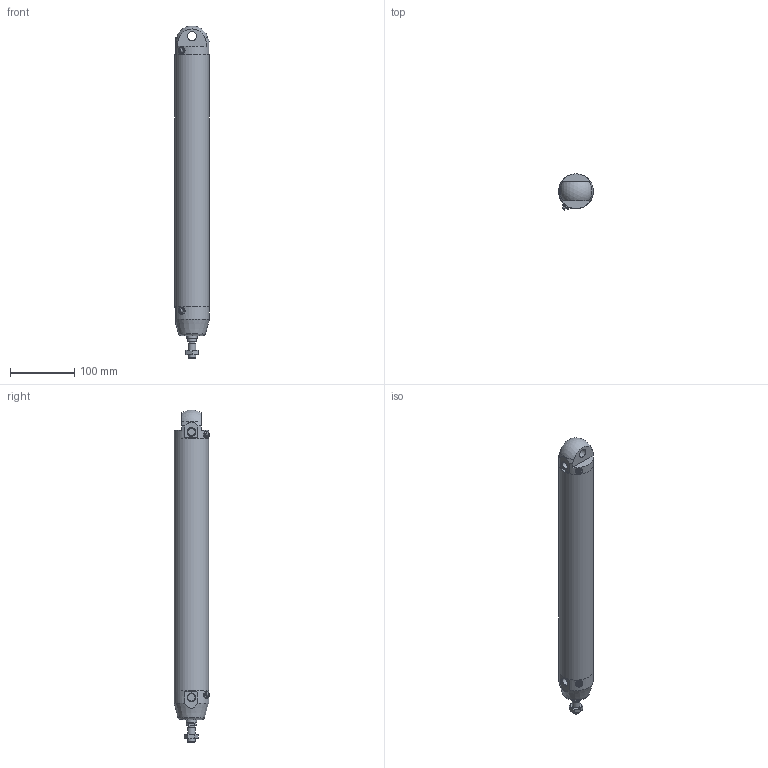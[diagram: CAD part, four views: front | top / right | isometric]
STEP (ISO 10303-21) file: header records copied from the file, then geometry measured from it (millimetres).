
FILE_DESCRIPTION(/* description */ (''),/* implementation_level */ '2;1');
FILE_NAME(/* name */ 'I:\Area Tecnica\Documenti\A-Manieri\_Inventor\12X\12X#A_###_####_#_#\12XBA_050_0350_#_#.stp',/* time_stamp */ '2015-04-24T09:19:15+02:00',/* author */ ('maniean1'),/* organization */ ('Pneumax S.p.A.'),/* preprocessor_version */ 'ST-DEVELOPER v15.2',/* originating_system */ 'Autodesk Inventor 2014',/* authorisation */ '');
FILE_SCHEMA (('AUTOMOTIVE_DESIGN { 1 0 10303 214 3 1 1 }'));
Length unit declared in the file: millimetre
Products named in the file (6): C1250_619-0350; 12X50_614; 12X50_607; S12X50_0350; 12X_50_11; 12XBA_050_0350_#_#
Bounding box: 54 x 55.88 x 516.83 mm (x, y, z)
Volume: 439584 mm3; surface area: 185945.5 mm2
Topology: 5 solids, 5 shells, 77 faces, 168 edges, 109 vertices
Faces by surface type: plane 43, cylinder 18, cone 12, torus 3, sphere 1
Full cylindrical faces by diameter (mm): 5 x2, 10.2 x1, 11 x2, 11.4 x2, 12 x2, 14 x2, 15.6 x1, 16 x1, 50 x2, 54 x3
Entity records: 2072 total; most frequent: CARTESIAN_POINT 428, DIRECTION 346, ORIENTED_EDGE 260, AXIS2_PLACEMENT_3D 152, EDGE_CURVE 130, EDGE_LOOP 122, VERTEX_POINT 100, ADVANCED_FACE 77
